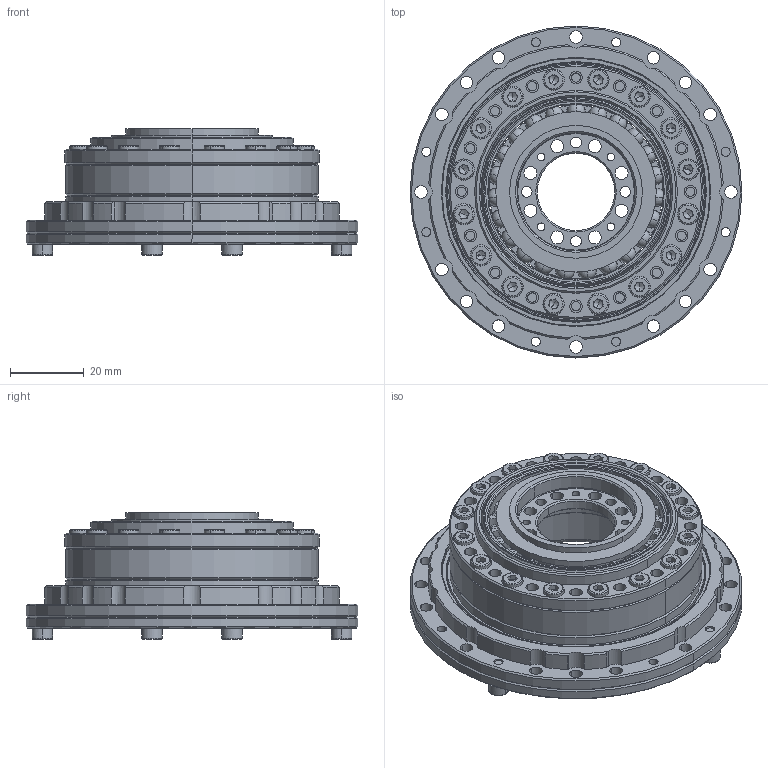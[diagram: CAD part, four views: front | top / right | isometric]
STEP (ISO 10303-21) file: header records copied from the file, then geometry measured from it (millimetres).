
FILE_DESCRIPTION (( 'STEP AP203' ), '1' );
FILE_NAME ('LHSG-20-XXX-C-I-RWL.STEP', '2025-06-14T06:38:01', ( '' ), ( '' ), 'SwSTEP 2.0', 'SolidWorks 2013', '' );
FILE_SCHEMA (( 'CONFIG_CONTROL_DESIGN' ));
Length unit declared in the file: millimetre
Products named in the file (1): LHSG-20-XXX-C-I-RWL
Bounding box: 90 x 90 x 34.35 mm (x, y, z)
Volume: 60417.2 mm3; surface area: 59046 mm2
Topology: 27 solids, 52 shells, 1343 faces, 3178 edges, 1962 vertices
Faces by surface type: cylinder 541, plane 456, cone 186, torus 114, sphere 46
Entity records: 37962 total; most frequent: DIRECTION 7369, CARTESIAN_POINT 6332, ORIENTED_EDGE 5986, AXIS2_PLACEMENT_3D 3066, EDGE_CURVE 2993, VERTEX_POINT 1893, CIRCLE 1722, EDGE_LOOP 1612
